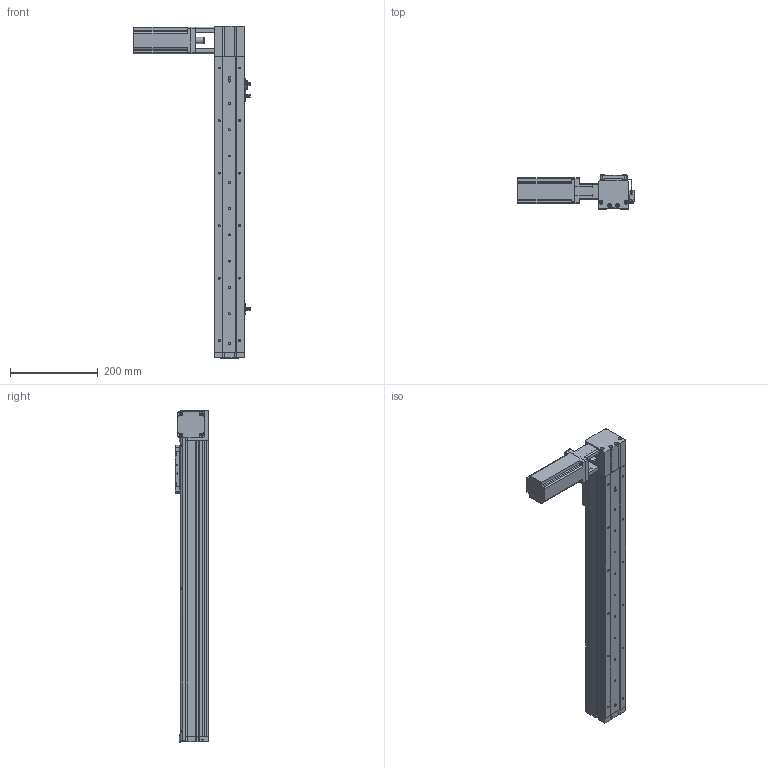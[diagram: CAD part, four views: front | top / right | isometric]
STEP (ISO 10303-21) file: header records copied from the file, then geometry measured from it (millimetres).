
FILE_DESCRIPTION (( 'STEP AP214' ), '1' );
FILE_NAME ('KSD68BS-S500-MLT-CR.STEP', '2019-08-28T03:20:21', ( '微软用户' ), ( '微软中国' ), 'SwSTEP 2.0', 'SolidWorks 2014', '' );
FILE_SCHEMA (( 'AUTOMOTIVE_DESIGN' ));
Length unit declared in the file: millimetre
Products named in the file (13): 100遵鎮湛假蚾啣1; KSD68BS 500行程盖板全封闭; 68遵裔啣揤啣1; 68宽单导轨全封闭丝杆传动安装板1防护罩; KSD68BS 500行程侧板全封闭; 68宽单导轨全封闭同步带端板; 68单导轨全封闭同步带电机座右; 68单导轨全封闭同步带安装板; 感应片68宽全封闭; U倰嫖萇EEㄜSX672; 台达ECMA－C20604AS伺服电机（400W); KSD68BS 500行程底板全封闭; KSD68BS-S500-MLT-CR
Assembly tree (16 placements, depth 2):
  KSD68BS-S500-MLT-CR
    KSD68BS 500行程底板全封闭
    台达ECMA－C20604AS伺服电机（400W)
    U倰嫖萇EEㄜSX672  x3
    感应片68宽全封闭
    68单导轨全封闭同步带安装板
    68单导轨全封闭同步带电机座右
    68宽单导轨全封闭同步带端板
    KSD68BS 500行程侧板全封闭  x2
    68宽单导轨全封闭丝杆传动安装板1防护罩
    68遵裔啣揤啣1  x2
    KSD68BS 500行程盖板全封闭
    100遵鎮湛假蚾啣1
Bounding box: 266.4 x 77 x 758.1 mm (x, y, z)
Volume: 1812867.8 mm3; surface area: 615462.5 mm2
Topology: 17 solids, 17 shells, 1340 faces, 3780 edges, 2425 vertices
Faces by surface type: cylinder 604, plane 600, cone 136
Entity records: 41639 total; most frequent: CARTESIAN_POINT 6969, DIRECTION 6244, ORIENTED_EDGE 5988, EDGE_CURVE 2994, AXIS2_PLACEMENT_3D 2226, VERTEX_POINT 1963, VECTOR 1792, LINE 1792
